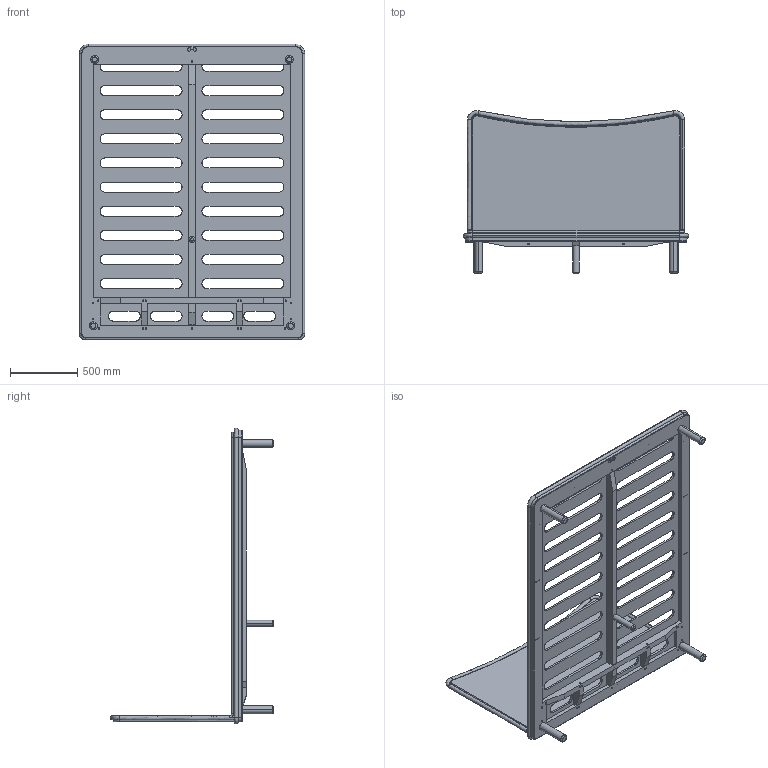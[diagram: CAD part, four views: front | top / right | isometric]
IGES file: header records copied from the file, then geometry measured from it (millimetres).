
Start section: SolidWorks IGES file using analytic representation for surfaces
Global section: file name: C:\Users\David.BDLE\Desktop\NOVOS 3D cad files\Carlton\061AQ_Carlton Bed_ve\061AQ_Carlton Bed_3D IGS.IGS; native system: SolidWorks 2016; preprocessor: SolidWorks 2016; author: David; date: 201211.123917; units: millimetre
Bounding box: 1680 x 1214.92 x 2205 mm (x, y, z)
Surface area: 11160763 mm2 (no closed solid volume)
Topology: 0 solids, 0 shells, 954 faces, 15804 edges, 15738 vertices
Faces by surface type: revolution 633, bspline 321
